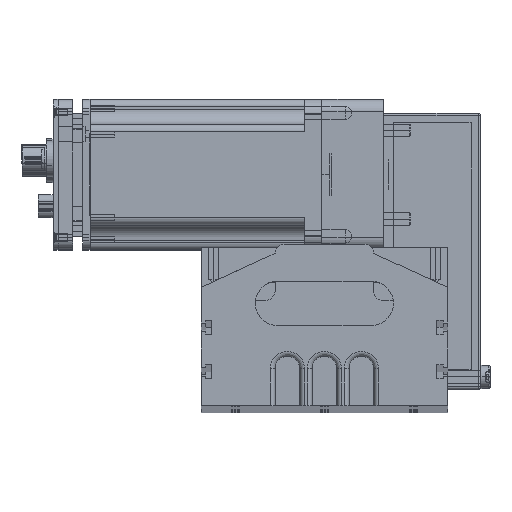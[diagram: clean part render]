
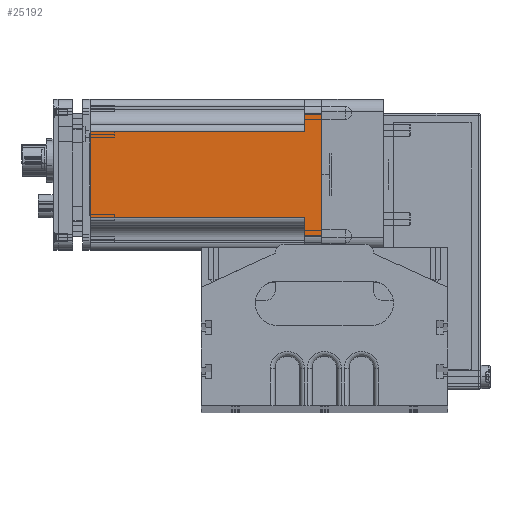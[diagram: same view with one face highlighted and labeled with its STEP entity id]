
A CAD part, top view. The second image highlights one B-rep face of the part: STEP entity #25192.
In plain terms, the highlighted planar face has unit normal (0, 0, 1).
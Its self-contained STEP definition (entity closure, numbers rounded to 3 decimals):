
#13355 = CARTESIAN_POINT ( 'NONE',  ( -24.5, 7., 30.5 ) ) ;
#13372 = DIRECTION ( 'NONE',  ( 1., 0., 0. ) ) ;
#13381 = LINE ( 'NONE', #13427, #13420 ) ;
#13420 = VECTOR ( 'NONE', #13372, 1000. ) ;
#13427 = CARTESIAN_POINT ( 'NONE',  ( -24.5, 7., 30.5 ) ) ;
#13428 = CARTESIAN_POINT ( 'NONE',  ( -17.5, 7., 30.5 ) ) ;
#13469 = LINE ( 'NONE', #13513, #13512 ) ;
#13511 = DIRECTION ( 'NONE',  ( 0., 1., 0. ) ) ;
#13512 = VECTOR ( 'NONE', #13511, 1000. ) ;
#13513 = CARTESIAN_POINT ( 'NONE',  ( -24.5, 7., 30.5 ) ) ;
#13550 = CARTESIAN_POINT ( 'NONE',  ( -24.5, 0., 30.5 ) ) ;
#13775 = CARTESIAN_POINT ( 'NONE',  ( 17.5, 7., 30.5 ) ) ;
#13804 = PLANE ( 'NONE',  #13810 ) ;
#13810 = AXIS2_PLACEMENT_3D ( 'NONE', #13857, #13849, #13848 ) ;
#13828 = CARTESIAN_POINT ( 'NONE',  ( -17.5, 94., 30.5 ) ) ;
#13836 = DIRECTION ( 'NONE',  ( 0., -1., 0. ) ) ;
#13837 = VECTOR ( 'NONE', #13836, 1000. ) ;
#13838 = CARTESIAN_POINT ( 'NONE',  ( 17.5, 95.35, 30.5 ) ) ;
#13839 = LINE ( 'NONE', #13838, #13837 ) ;
#13840 = DIRECTION ( 'NONE',  ( 0., -1., 0. ) ) ;
#13841 = VECTOR ( 'NONE', #13840, 1000. ) ;
#13842 = CARTESIAN_POINT ( 'NONE',  ( 24.5, 7., 30.5 ) ) ;
#13843 = LINE ( 'NONE', #13842, #13841 ) ;
#13844 = CARTESIAN_POINT ( 'NONE',  ( 17.5, 94., 30.5 ) ) ;
#13845 = DIRECTION ( 'NONE',  ( 1., 0., 0. ) ) ;
#13846 = VECTOR ( 'NONE', #13845, 1000. ) ;
#13847 = CARTESIAN_POINT ( 'NONE',  ( -24.5, 0., 30.5 ) ) ;
#13848 = DIRECTION ( 'NONE',  ( -1., 0., 0. ) ) ;
#13849 = DIRECTION ( 'NONE',  ( 0., 0., -1. ) ) ;
#13850 = LINE ( 'NONE', #13847, #13846 ) ;
#13855 = FACE_OUTER_BOUND ( 'NONE', #25249, .T. ) ;
#13856 = CARTESIAN_POINT ( 'NONE',  ( 24.5, 0., 30.5 ) ) ;
#13857 = CARTESIAN_POINT ( 'NONE',  ( -24.5, 7., 30.5 ) ) ;
#13865 = DIRECTION ( 'NONE',  ( 0., 1., 0. ) ) ;
#13866 = VECTOR ( 'NONE', #13865, 1000. ) ;
#13867 = CARTESIAN_POINT ( 'NONE',  ( -17.5, 7., 30.5 ) ) ;
#13868 = CARTESIAN_POINT ( 'NONE',  ( 24.5, 7., 30.5 ) ) ;
#13874 = LINE ( 'NONE', #13867, #13866 ) ;
#13889 = DIRECTION ( 'NONE',  ( 1., 0., 0. ) ) ;
#13890 = VECTOR ( 'NONE', #13889, 1000. ) ;
#13891 = CARTESIAN_POINT ( 'NONE',  ( -24.5, 7., 30.5 ) ) ;
#13892 = LINE ( 'NONE', #13891, #13890 ) ;
#13994 = DIRECTION ( 'NONE',  ( 1., 0., 0. ) ) ;
#14001 = LINE ( 'NONE', #14005, #14004 ) ;
#14004 = VECTOR ( 'NONE', #13994, 1000. ) ;
#14005 = CARTESIAN_POINT ( 'NONE',  ( 26.5, 94., 30.5 ) ) ;
#24739 = VERTEX_POINT ( 'NONE', #13355 ) ;
#24745 = VERTEX_POINT ( 'NONE', #13428 ) ;
#24749 = EDGE_CURVE ( 'NONE', #24739, #24745, #13381, .T. ) ;
#24829 = EDGE_CURVE ( 'NONE', #24854, #24739, #13469, .T. ) ;
#24854 = VERTEX_POINT ( 'NONE', #13550 ) ;
#25130 = VERTEX_POINT ( 'NONE', #13775 ) ;
#25150 = VERTEX_POINT ( 'NONE', #13828 ) ;
#25190 = VERTEX_POINT ( 'NONE', #13856 ) ;
#25192 = ADVANCED_FACE ( 'NONE', ( #13855 ), #13804, .F. ) ;
#25194 = ORIENTED_EDGE ( 'NONE', *, *, #24829, .F. ) ;
#25196 = EDGE_CURVE ( 'NONE', #24854, #25190, #13850, .T. ) ;
#25199 = ORIENTED_EDGE ( 'NONE', *, *, #25205, .F. ) ;
#25200 = EDGE_CURVE ( 'NONE', #25248, #25190, #13843, .T. ) ;
#25202 = EDGE_CURVE ( 'NONE', #25203, #25130, #13839, .T. ) ;
#25203 = VERTEX_POINT ( 'NONE', #13844 ) ;
#25204 = ORIENTED_EDGE ( 'NONE', *, *, #25200, .F. ) ;
#25205 = EDGE_CURVE ( 'NONE', #25130, #25248, #13892, .T. ) ;
#25208 = ORIENTED_EDGE ( 'NONE', *, *, #25317, .F. ) ;
#25215 = ORIENTED_EDGE ( 'NONE', *, *, #25241, .F. ) ;
#25218 = ORIENTED_EDGE ( 'NONE', *, *, #24749, .F. ) ;
#25224 = ORIENTED_EDGE ( 'NONE', *, *, #25196, .T. ) ;
#25241 = EDGE_CURVE ( 'NONE', #24745, #25150, #13874, .T. ) ;
#25248 = VERTEX_POINT ( 'NONE', #13868 ) ;
#25249 = EDGE_LOOP ( 'NONE', ( #25215, #25218, #25194, #25224, #25204, #25199, #25315, #25208 ) ) ;
#25315 = ORIENTED_EDGE ( 'NONE', *, *, #25202, .F. ) ;
#25317 = EDGE_CURVE ( 'NONE', #25150, #25203, #14001, .T. ) ;
